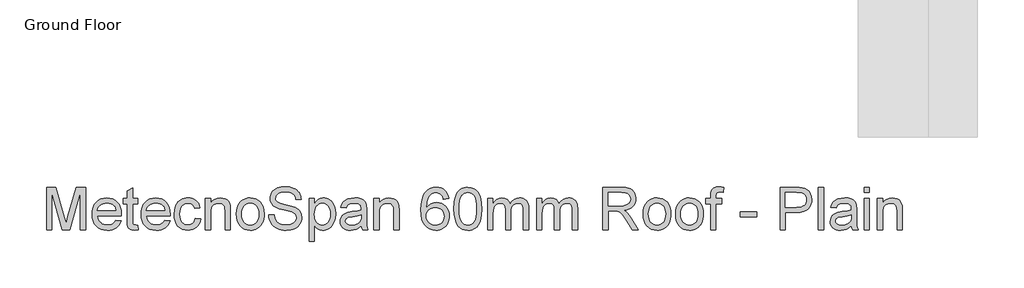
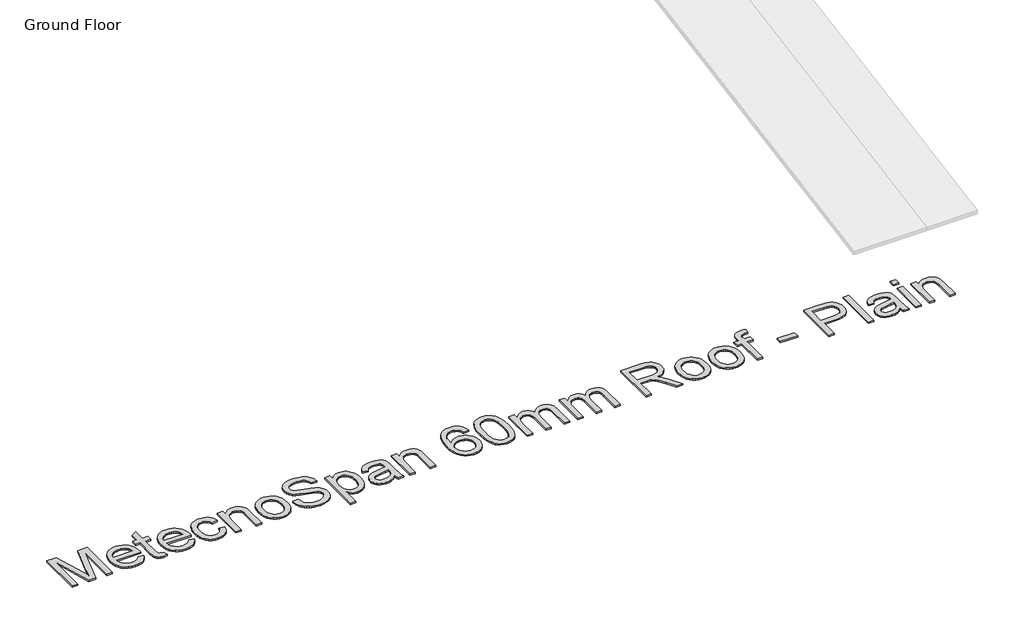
# One storey, part 5 of 14: 1 proxy.
"""IFC4 building model written with IfcOpenShell, lengths in millimetres."""

from ifc_helpers import new_model, si_unit, origin, origin_with_axes, place, context, project, spatial, polyline, outline, extrude, element, save

model = new_model("IFC4")

# Units and contexts
model_context = context("Model", 3, world=origin())
ifc_project = project(units=[si_unit("LENGTHUNIT", "METRE", prefix="MILLI")], contexts=[model_context])

# Site, building, storey
site = spatial("IfcSite", under=ifc_project)
building = spatial("IfcBuilding", under=site)
storey = spatial("IfcBuildingStorey", under=building, Name="Ground Floor", Elevation=0.0)

# Proxy
placement = place(None, origin())
element("IfcBuildingElementProxy", 1, Name="600mm Arial", ObjectType="600mm Arial", at=placement, inside=storey, context=model_context, shape_type="SweptSolid", body=[
    extrude(outline(polyline([(11613.3888321, -5259.7789852), (11613.3888321, -4657.0411243), (11743.0304472, -4657.0411243), (11866.344492, -5081.8712524), (11891.2133148, -5170.6043896), (11918.1422769, -5074.5136125), (12039.3961825, -4657.0411243), (12169.0377976, -4657.0411243), (12169.0377976, -5259.7789852), (12093.695565, -5259.7789852), (12093.695565, -4732.3833569), (11942.2753358, -5259.7789852), (11840.1512939, -5259.7789852), (11688.7310647, -4732.3833569), (11688.7310647, -5259.7789852), (11613.3888321, -5259.7789852)])), origin_with_axes(), (0.0, 0.0, 1.0), 20.0),
    extrude(outline(polyline([(12601.3727183, -5127.9300782), (12675.243423, -5137.3478572), (12663.917256, -5166.9347667), (12648.6271606, -5193.0084031), (12629.3731367, -5215.5687665), (12606.1551843, -5234.6158568), (12579.2124267, -5249.7450038), (12548.7839871, -5260.5515374), (12514.8698657, -5267.0354576), (12477.4700624, -5269.1967643), (12430.7214578, -5265.4673606), (12389.0680189, -5254.2791494), (12352.5097456, -5235.6321308), (12321.046638, -5209.5263047), (12295.7455538, -5176.6882381), (12277.6733508, -5137.8444979), (12266.830029, -5092.9950842), (12263.2155884, -5042.1399969), (12266.8668172, -4989.5604627), (12277.8205036, -4943.2165284), (12296.0766476, -4903.1081939), (12321.6352492, -4869.2354592), (12353.0155834, -4842.3248912), (12388.7369251, -4823.103057), (12428.7992744, -4811.5699564), (12473.2026312, -4807.7255896), (12516.1758468, -4811.5607594), (12555.037981, -4823.0662688), (12589.789034, -4842.2421178), (12620.4290057, -4869.0883064), (12645.4403828, -4902.8874647), (12663.3056522, -4942.9222228), (12674.0248139, -4989.1925807), (12677.5978677, -5041.6985385), (12677.1564093, -5062.0056246), (12338.557821, -5062.0056246), (12342.9218211, -5092.0707807), (12351.5992377, -5118.4019345), (12364.5900707, -5140.999086), (12381.89432, -5159.8622353), (12402.5554926, -5174.733865), (12425.6170951, -5185.3564576), (12451.0791277, -5191.7300132), (12478.9415903, -5193.8545317), (12519.0407278, -5189.9181943), (12552.812295, -5178.1091823), (12580.2562918, -5157.6917316), (12601.3727183, -5127.9300782)]), holes=[polyline([(12338.557821, -4986.663392), (12602.2556351, -4986.663392), (12592.0653039, -4946.8585601), (12583.3005153, -4931.2051812), (12572.0893115, -4918.3844937), (12551.5431021, -4902.9334499), (12528.1642013, -4891.8969901), (12501.9526091, -4885.2751141), (12472.9083256, -4883.0678222), (12446.4162234, -4884.8290572), (12422.1222162, -4890.1127624), (12400.0263038, -4898.9189376), (12380.1284864, -4911.247583), (12363.4312424, -4926.5284814), (12350.9370501, -4944.1914157), (12342.6459097, -4964.2363859), (12338.557821, -4986.663392)])]), origin_with_axes(), (0.0, 0.0, 1.0), 20.0),
    extrude(outline(polyline([(12913.0423446, -5196.9447405), (12922.4601237, -5261.9862772), (12866.1006021, -5269.1967643), (12829.9378019, -5266.0697674), (12802.9720517, -5256.6887765), (12783.9157643, -5242.2310141), (12771.4813529, -5223.8737025), (12764.6387478, -5192.3462155), (12762.3578794, -5138.3779268), (12762.3578794, -4892.4856012), (12705.851205, -4892.4856012), (12705.851205, -4817.1433686), (12762.3578794, -4817.1433686), (12762.3578794, -4709.5746732), (12837.700112, -4665.281681), (12837.700112, -4817.1433686), (12913.0423446, -4817.1433686), (12913.0423446, -4892.4856012), (12837.700112, -4892.4856012), (12837.700112, -5136.1706349), (12841.6732376, -5175.0189735), (12854.5491074, -5188.7777602), (12865.4200204, -5192.5853388), (12880.2272707, -5193.8545317), (12913.0423446, -5196.9447405)])), origin_with_axes(), (0.0, 0.0, 1.0), 20.0),
    extrude(outline(polyline([(13298.28837, -5127.9300782), (13372.1590746, -5137.3478572), (13360.8329077, -5166.9347667), (13345.5428123, -5193.0084031), (13326.2887884, -5215.5687665), (13303.0708359, -5234.6158568), (13276.1280783, -5249.7450038), (13245.6996388, -5260.5515374), (13211.7855174, -5267.0354576), (13174.385714, -5269.1967643), (13127.6371095, -5265.4673606), (13085.9836706, -5254.2791494), (13049.4253973, -5235.6321308), (13017.9622897, -5209.5263047), (12992.6612055, -5176.6882381), (12974.5890024, -5137.8444979), (12963.7456806, -5092.9950842), (12960.13124, -5042.1399969), (12963.7824688, -4989.5604627), (12974.7361552, -4943.2165284), (12992.9922993, -4903.1081939), (13018.5509009, -4869.2354592), (13049.9312351, -4842.3248912), (13085.6525768, -4823.103057), (13125.7149261, -4811.5699564), (13170.1182829, -4807.7255896), (13213.0914984, -4811.5607594), (13251.9536327, -4823.0662688), (13286.7046857, -4842.2421178), (13317.3446573, -4869.0883064), (13342.3560345, -4902.8874647), (13360.2213039, -4942.9222228), (13370.9404655, -4989.1925807), (13374.5135194, -5041.6985385), (13374.072061, -5062.0056246), (13035.4734726, -5062.0056246), (13039.8374728, -5092.0707807), (13048.5148894, -5118.4019345), (13061.5057223, -5140.999086), (13078.8099717, -5159.8622353), (13099.4711442, -5174.733865), (13122.5327468, -5185.3564576), (13147.9947794, -5191.7300132), (13175.857242, -5193.8545317), (13215.9563795, -5189.9181943), (13249.7279466, -5178.1091823), (13277.1719435, -5157.6917316), (13298.28837, -5127.9300782)]), holes=[polyline([(13035.4734726, -4986.663392), (13299.1712868, -4986.663392), (13288.9809555, -4946.8585601), (13280.216167, -4931.2051812), (13269.0049632, -4918.3844937), (13248.4587538, -4902.9334499), (13225.079853, -4891.8969901), (13198.8682608, -4885.2751141), (13169.8239773, -4883.0678222), (13143.3318751, -4884.8290572), (13119.0378678, -4890.1127624), (13096.9419555, -4898.9189376), (13077.0441381, -4911.247583), (13060.346894, -4926.5284814), (13047.8527018, -4944.1914157), (13039.5615613, -4964.2363859), (13035.4734726, -4986.663392)])]), origin_with_axes(), (0.0, 0.0, 1.0), 20.0),
    extrude(outline(polyline([(13732.3891243, -5099.6767409), (13807.7313569, -5109.09452), (13799.5367855, -5144.6457163), (13786.725295, -5176.1042254), (13769.2968855, -5203.4700473), (13747.2515569, -5226.7431821), (13721.5182113, -5245.3166243), (13693.0257508, -5258.5833687), (13661.7741753, -5266.5434154), (13627.7634849, -5269.1967643), (13585.5076392, -5265.4949517), (13547.6203922, -5254.389514), (13514.1017439, -5235.8804511), (13484.9516944, -5209.9677631), (13461.3566629, -5177.1388935), (13444.503069, -5137.8812861), (13434.3909126, -5092.1949409), (13431.0201939, -5040.0798577), (13436.7775471, -4973.0333641), (13443.9742386, -4942.862442), (13454.0496068, -4914.926403), (13467.0726294, -4889.7862671), (13483.1122844, -4868.0030545), (13502.1685717, -4849.576765), (13524.2414914, -4834.5073988), (13548.3331636, -4822.7903573), (13573.4457083, -4814.4210419), (13599.5791255, -4809.3994526), (13626.7334153, -4807.7255896), (13660.1600931, -4810.024852), (13690.3953946, -4816.9226394), (13717.4393197, -4828.4189518), (13741.2918686, -4844.5137891), (13761.5483709, -4864.8392693), (13777.8041566, -4889.0275105), (13790.0592256, -4917.0785126), (13798.3135778, -4948.9922757), (13722.9713452, -4958.4100548), (13709.3045291, -4925.5397985), (13688.0225557, -4901.9769567), (13660.3026474, -4887.7951058), (13627.3220265, -4883.0678222), (13601.7220381, -4885.3946758), (13578.6328444, -4892.3752367), (13558.0544453, -4904.0095047), (13539.9868408, -4920.2974801), (13525.2761595, -4941.6162417), (13514.7685301, -4968.3428687), (13508.4639524, -5000.4773609), (13506.3624265, -5038.0197185), (13508.4179671, -5076.1276947), (13514.5845891, -5108.6346675), (13524.8622923, -5135.5406369), (13539.2510768, -5156.845603), (13556.9599964, -5173.0370093), (13577.1981046, -5184.6022995), (13599.9654016, -5191.5414737), (13625.2618873, -5193.8545317), (13664.2757729, -5188.0787844), (13681.1477609, -5180.8591002), (13696.2631124, -5170.7515424), (13709.198763, -5157.6457463), (13719.5316486, -5141.4313474), (13727.261769, -5122.1083456), (13732.3891243, -5099.6767409)])), origin_with_axes(), (0.0, 0.0, 1.0), 20.0),
    extrude(outline(polyline([(13873.6558105, -5259.7789852), (13873.6558105, -4817.1433686), (13948.9980431, -4817.1433686), (13948.9980431, -4878.9475438), (13975.172847, -4847.7879388), (14006.6083635, -4825.5310781), (14043.3045925, -4812.1769617), (14085.2615341, -4807.7255896), (14122.3992215, -4811.312439), (14156.4099119, -4822.0729874), (14184.7736138, -4838.6644654), (14204.9703353, -4859.7441037), (14218.6739396, -4885.25672), (14227.5582898, -4915.1471322), (14231.5314154, -4987.9877672), (14231.5314154, -5259.7789852), (14156.1891827, -5259.7789852), (14156.1891827, -4998.1413103), (14154.018679, -4959.182607), (14147.5071677, -4931.4810927), (14135.4958205, -4911.6338591), (14116.8258093, -4896.2379976), (14092.8950855, -4886.360366), (14065.1016007, -4883.0678222), (14042.2239392, -4884.9164292), (14020.9741554, -4890.4622503), (14001.3522495, -4899.7052854), (13983.3582214, -4912.6455346), (13968.3256434, -4930.7545258), (13957.5880877, -4955.503787), (13951.1455542, -4986.8933183), (13948.9980431, -5024.9231195), (13948.9980431, -5259.7789852), (13873.6558105, -5259.7789852)])), origin_with_axes(), (0.0, 0.0, 1.0), 20.0),
    extrude(outline(polyline([(14316.2914271, -5038.4611769), (14320.3657201, -4981.135965), (14332.5885994, -4931.7386101), (14352.9600649, -4890.2691122), (14381.4801166, -4856.7274713), (14410.1933063, -4835.289148), (14441.8863402, -4819.97606), (14476.5592182, -4810.7882072), (14514.2119405, -4807.7255896), (14555.7780074, -4811.4549933), (14593.3617517, -4822.6432045), (14626.9631735, -4841.2902231), (14656.5822726, -4867.3960492), (14680.7567182, -4900.0777659), (14698.0241793, -4938.4524565), (14708.384656, -4982.520121), (14711.8381483, -5032.2807594), (14710.311438, -5072.6098231), (14705.7313071, -5108.3955442), (14698.0977557, -5139.6379227), (14687.4107838, -5166.3369585), (14673.8037485, -5189.398561), (14657.4100071, -5209.7286398), (14638.2295596, -5227.3271947), (14616.2624059, -5242.1942259), (14592.3638718, -5254.0078364), (14567.3892829, -5262.4461297), (14541.3386391, -5267.5091057), (14514.2119405, -5269.1967643), (14472.0388682, -5265.4811562), (14434.105636, -5254.3343317), (14400.4122438, -5235.7562909), (14370.9586915, -5209.7470339), (14347.0417633, -5176.7480189), (14329.9582432, -5137.2007044), (14319.7081311, -5091.1050904), (14316.2914271, -5038.4611769)]), holes=[polyline([(14391.6336597, -5038.3140241), (14393.8133605, -5074.8585018), (14400.3524629, -5106.5009519), (14411.2509671, -5133.2413745), (14426.5088728, -5155.0797694), (14445.0685195, -5172.0437279), (14465.8722463, -5184.1608411), (14488.9200533, -5191.4311091), (14514.2119405, -5193.8545317), (14539.3750689, -5191.4173135), (14562.3309054, -5184.1056588), (14583.07945, -5171.9195677), (14601.6207025, -5154.8590402), (14616.8786083, -5132.8045146), (14627.7771124, -5105.6364293), (14634.3162148, -5073.3547842), (14636.4959157, -5035.9595794), (14634.3024193, -5000.57393), (14627.7219301, -4969.7592143), (14616.7544481, -4943.5154325), (14601.3999733, -4921.8425845), (14582.7897429, -4904.878626), (14562.0549939, -4892.7615127), (14539.1957265, -4885.4912448), (14514.2119405, -4883.0678222), (14488.9200533, -4885.4820478), (14465.8722463, -4892.7247245), (14445.0685195, -4904.7958525), (14426.5088728, -4921.6954317), (14411.2509671, -4943.4694473), (14400.3524629, -4970.1638845), (14393.8133605, -5001.7787435), (14391.6336597, -5038.3140241)])]), origin_with_axes(), (0.0, 0.0, 1.0), 20.0),
    extrude(outline(polyline([(14777.7626018, -5052.5878455), (14853.1048344, -5052.5878455), (14861.7500613, -5094.3976343), (14877.3850461, -5128.0036546), (14901.7756224, -5154.6750992), (14936.6876237, -5175.6811611), (14979.3619352, -5189.3111891), (15027.0394417, -5193.8545317), (15069.0147774, -5190.414835), (15105.7661887, -5180.0957451), (15135.5462362, -5163.7617845), (15156.6074804, -5142.277476), (15169.1338624, -5117.6109882), (15173.309323, -5091.7304898), (15170.1823261, -5066.5121791), (15160.8013352, -5044.7151709), (15141.7450478, -5026.118736), (15109.5921615, -5010.5021453), (14999.8897505, -4981.7337733), (14927.8768499, -4962.69588), (14881.79963, -4944.5776918), (14844.2940606, -4919.2306223), (14817.7145865, -4888.5124757), (14801.8772666, -4853.0854396), (14796.59816, -4813.6117015), (14798.2306363, -4791.1754983), (14803.1280654, -4769.4842562), (14811.2904471, -4748.5379751), (14822.7177816, -4728.336655), (14837.2813101, -4709.7034319), (14854.8522739, -4693.4614419), (14875.430673, -4679.6106847), (14899.0165074, -4668.1511606), (14952.0283029, -4652.7552991), (15010.7054811, -4647.6233453), (15074.2754899, -4652.9944224), (15129.8992476, -4669.1076538), (15154.2346416, -4681.1098039), (15175.5901914, -4695.6319456), (15193.965897, -4712.6740791), (15209.3617585, -4732.2362041), (15221.6582142, -4753.7481038), (15230.7357025, -4776.639561), (15236.5942232, -4800.9105756), (15239.2337766, -4826.5611477), (15163.8915439, -4826.5611477), (15158.8515606, -4802.5200593), (15150.0591809, -4781.6059679), (15137.5144049, -4763.8188734), (15121.2172325, -4749.1587759), (15100.8641611, -4737.6992518), (15076.1516881, -4729.5138774), (15047.0798134, -4724.6026527), (15013.6485371, -4722.9655779), (14979.150403, -4724.5842587), (14949.6738581, -4729.440301), (14925.2189025, -4737.5337049), (14905.7855361, -4748.8644703), (14890.9782858, -4762.4853012), (14880.4016785, -4777.4489014), (14874.055714, -4793.7552708), (14871.9403926, -4811.4044095), (14873.4395117, -4826.5887389), (14877.9368691, -4840.3567225), (14885.4324647, -4852.7083605), (14895.9262987, -4863.6436528), (14912.4442002, -4873.999531), (14938.4534573, -4884.4657738), (15018.9460378, -4905.7293531), (15102.0137923, -4925.9260746), (15152.2664729, -4943.5476222), (15195.2166958, -4970.8812544), (15211.8219694, -4986.9485006), (15225.1806843, -5004.6160334), (15235.4491905, -5023.7918824), (15242.7838378, -5044.3840771), (15248.6515556, -5089.8175035), (15246.963897, -5113.3849438), (15241.900921, -5136.2626054), (15233.4626278, -5158.4504882), (15221.6490172, -5179.9485923), (15206.6670229, -5199.9245846), (15188.7235786, -5217.5461322), (15167.8186842, -5232.813235), (15143.9523398, -5245.725893), (15117.8189226, -5255.9943992), (15090.1128098, -5263.3290465), (15029.9824977, -5269.1967643), (14991.4422602, -5267.6148717), (14956.1669754, -5262.869194), (14924.1566433, -5254.9597311), (14895.4112639, -5243.886483), (14869.7560932, -5229.6310557), (14847.0163874, -5212.1750551), (14827.1921464, -5191.518481), (14810.2833702, -5167.6613336), (14796.6625393, -5141.3761651), (14786.7021343, -5113.4355276), (14780.4021551, -5083.839421), (14777.7626018, -5052.5878455)])), origin_with_axes(), (0.0, 0.0, 1.0), 20.0),
    extrude(outline(polyline([(15352.2471255, -5429.2990086), (15352.2471255, -4817.1433686), (15427.5893581, -4817.1433686), (15427.5893581, -4891.0140733), (15452.1638754, -4854.5753616), (15479.6814486, -4828.5477105), (15511.7607586, -4812.9311198), (15550.0204861, -4807.7255896), (15576.2964576, -4809.5466054), (15600.9721424, -4815.0096531), (15624.0475406, -4824.1147324), (15645.522652, -4836.8618436), (15664.9284273, -4852.9198927), (15681.7958167, -4871.9577859), (15696.1248205, -4893.9755233), (15707.9154384, -4918.9731049), (15723.697576, -4974.486498), (15728.9582885, -5035.0766626), (15723.0169943, -5099.511194), (15715.5903765, -5129.1762784), (15705.1931116, -5157.1399086), (15691.9677539, -5182.670919), (15676.0568576, -5205.0381444), (15657.4604228, -5224.2415845), (15636.1784493, -5240.2812395), (15613.2548025, -5252.9317816), (15589.7333475, -5261.9678831), (15565.6140841, -5267.389544), (15540.8970126, -5269.1967643), (15506.2609227, -5264.3591161), (15475.3404411, -5249.8461714), (15448.8713315, -5227.9387986), (15427.5893581, -5200.917866), (15427.5893581, -5429.2990086), (15352.2471255, -5429.2990086)]), holes=[polyline([(15427.5893581, -5041.9928441), (15429.6265046, -5078.302797), (15435.7379443, -5109.5359784), (15445.923677, -5135.6923883), (15460.1837029, -5156.7720266), (15477.3499965, -5172.9956226), (15496.2545325, -5184.5839054), (15516.8973109, -5191.5368751), (15539.2783318, -5193.8545317), (15561.9812494, -5191.4541017), (15583.0011069, -5184.2528116), (15602.3379043, -5172.2506615), (15619.9916416, -5155.4476514), (15634.7023228, -5133.6046579), (15645.2099523, -5106.4825578), (15651.51453, -5074.0813511), (15653.6160559, -5036.4010378), (15651.5651138, -5000.4037845), (15645.4122874, -4969.2257854), (15635.1575768, -4942.8670405), (15620.8009819, -4921.3275497), (15603.5933016, -4904.5889189), (15584.7853346, -4892.632754), (15564.3770809, -4885.4590551), (15542.3685406, -4883.0678222), (15520.4289781, -4885.6108065), (15499.7861996, -4893.2397593), (15480.4402052, -4905.9546808), (15462.3909948, -4923.7555708), (15447.1652787, -4946.4033062), (15436.2897673, -4973.6587635), (15429.7644604, -5005.5219428), (15427.5893581, -5041.9928441)])]), origin_with_axes(), (0.0, 0.0, 1.0), 20.0),
    extrude(outline(polyline([(16096.2516725, -5203.2723108), (16060.2544193, -5234.1376102), (16023.1903083, -5254.3343317), (15984.2132109, -5265.4811562), (15942.4769985, -5269.1967643), (15908.9307591, -5266.9618812), (15879.5139951, -5260.2572318), (15854.2267064, -5249.0828162), (15833.0688932, -5233.4386344), (15816.3624521, -5214.3179677), (15804.4292798, -5192.7140975), (15797.2693765, -5168.6270239), (15794.8827421, -5142.0567468), (15798.4879856, -5110.8235654), (15809.3037163, -5082.4598636), (15825.9871648, -5058.1796519), (15847.1955618, -5039.1969409), (15872.119567, -5024.8495431), (15899.9498399, -5014.4752708), (15965.1385294, -5003.1445054), (16042.1730192, -4991.2251288), (16095.8102141, -4977.2456129), (16096.2516725, -4960.470194), (16091.0645364, -4926.8457796), (16084.5806162, -4914.3929741), (16075.503128, -4904.8464363), (16059.8129609, -4895.3182926), (16040.7014912, -4888.5124757), (15992.2146443, -4883.0678222), (15947.3330409, -4886.6914598), (15915.9894949, -4897.5623728), (15894.615551, -4917.6671238), (15879.6427538, -4948.9922757), (15804.3005211, -4939.5744966), (15817.3787261, -4898.3717132), (15836.8948659, -4865.9980976), (15864.6699566, -4841.2396393), (15902.5250139, -4822.8823278), (15948.8229629, -4811.5147741), (16001.926729, -4807.7255896), (16052.8599912, -4811.0733157), (16093.2350402, -4821.1164942), (16123.6772753, -4836.2180501), (16144.8120959, -4854.7409085), (16158.8283999, -4877.6415627), (16167.9150852, -4905.8765059), (16171.5939051, -4971.8009594), (16171.5939051, -5065.5372918), (16175.4198779, -5196.4297057), (16181.0852606, -5228.7849271), (16190.4294633, -5259.7789852), (16115.0872307, -5259.7789852), (16103.0207012, -5233.5857872), (16096.2516725, -5203.2723108)]), holes=[polyline([(16096.2516725, -5052.5878455), (16045.63111, -5065.1326216), (15974.7034613, -5075.6908348), (15909.8826538, -5087.9045171), (15893.0152643, -5096.2554384), (15880.5256705, -5107.7701448), (15872.8001486, -5121.5657196), (15870.2249747, -5136.759246), (15875.8351751, -5159.1632596), (15892.6657764, -5177.5205711), (15920.3488965, -5189.7710416), (15958.5166535, -5193.8545317), (15998.983673, -5189.3479773), (16034.7418029, -5175.8283139), (16063.7309041, -5155.9075039), (16083.8908375, -5132.1975093), (16092.83037, -5107.7701448), (16095.8102141, -5073.9250013), (16096.2516725, -5052.5878455)])]), origin_with_axes(), (0.0, 0.0, 1.0), 20.0),
    extrude(outline(polyline([(16275.189475, -5259.7789852), (16275.189475, -4817.1433686), (16350.5317076, -4817.1433686), (16350.5317076, -4878.9475438), (16376.7065115, -4847.7879388), (16408.142028, -4825.5310781), (16444.838257, -4812.1769617), (16486.7951986, -4807.7255896), (16523.932886, -4811.312439), (16557.9435765, -4822.0729874), (16586.3072783, -4838.6644654), (16606.5039998, -4859.7441037), (16620.2076041, -4885.25672), (16629.0919543, -4915.1471322), (16633.0650799, -4987.9877672), (16633.0650799, -5259.7789852), (16557.7228473, -5259.7789852), (16557.7228473, -4998.1413103), (16555.5523435, -4959.182607), (16549.0408322, -4931.4810927), (16537.029485, -4911.6338591), (16518.3594738, -4896.2379976), (16494.42875, -4886.360366), (16466.6352653, -4883.0678222), (16443.7576037, -4884.9164292), (16422.5078199, -4890.4622503), (16402.885914, -4899.7052854), (16384.8918859, -4912.6455346), (16369.8593079, -4930.7545258), (16359.1217522, -4955.503787), (16352.6792187, -4986.8933183), (16350.5317076, -5024.9231195), (16350.5317076, -5259.7789852), (16275.189475, -5259.7789852)])), origin_with_axes(), (0.0, 0.0, 1.0), 20.0),
    extrude(outline(polyline([(17339.3985106, -4817.1433686), (17264.056278, -4826.5611477), (17251.9161722, -4789.2211252), (17235.5086352, -4763.7269029), (17219.3126303, -4750.0141016), (17201.3323978, -4740.2192434), (17181.5679376, -4734.3423286), (17160.0192498, -4732.3833569), (17124.9968838, -4736.9450937), (17092.0346571, -4750.6303039), (17063.7261375, -4779.4538582), (17040.6047541, -4819.1299314), (17031.5686526, -4844.4356142), (17024.9881634, -4875.2503298), (17019.194022, -4953.4068597), (17049.4155279, -4918.1453704), (17085.6335103, -4893.2949416), (17125.8246183, -4878.5612677), (17167.9655009, -4873.6500431), (17204.1650892, -4877.0069663), (17237.5687744, -4887.0777359), (17268.1765563, -4903.8623519), (17295.9884352, -4927.3608144), (17319.1006215, -4956.1751717), (17335.6093261, -4988.9074722), (17345.5145488, -5025.557716), (17348.8162897, -5066.125903), (17347.2619883, -5093.5928924), (17342.599084, -5120.0757976), (17334.8275768, -5145.5746184), (17323.9474668, -5170.0893548), (17310.34503, -5192.7049005), (17294.4065426, -5212.5061489), (17276.1320045, -5229.4931), (17255.5214157, -5243.6657538), (17233.0162347, -5254.8355709), (17209.0579197, -5262.8140117), (17183.6464709, -5267.6010762), (17156.7818882, -5269.1967643), (17111.8680951, -5264.9661214), (17071.3045066, -5252.2741925), (17035.0911227, -5231.1209778), (17003.2279434, -5201.5064772), (16977.250876, -5162.1798919), (16958.6958279, -5111.8904232), (16947.562799, -5050.638071), (16943.8517894, -4978.4228353), (16947.9720677, -4897.4612052), (16960.3329028, -4828.3637695), (16980.9342945, -4771.1305281), (16994.3251991, -4746.9629803), (17009.7762429, -4725.761481), (17041.0370155, -4695.696325), (17077.2825891, -4674.2212135), (17118.5129637, -4661.3361466), (17164.7281393, -4657.0411243), (17199.4286085, -4659.6990718), (17230.8365338, -4667.672914), (17258.9519153, -4680.9626511), (17283.7747529, -4699.568283), (17304.6336621, -4722.8644103), (17320.8572581, -4750.2256337), (17332.4455409, -4781.6519532), (17339.3985106, -4817.1433686)]), holes=[polyline([(17019.194022, -5064.9486806), (17023.5534237, -5098.3339717), (17036.6316286, -5130.2109465), (17056.9387147, -5157.6181552), (17082.98476, -5177.5941475), (17114.4202765, -5189.7894357), (17150.8957763, -5193.8545317), (17177.0843758, -5191.7484073), (17200.6150279, -5185.430034), (17221.4877326, -5174.8994119), (17239.7024899, -5160.1565409), (17254.4775506, -5141.7992294), (17265.0311653, -5120.4252855), (17271.3633341, -5096.0347092), (17273.4740571, -5068.6275005), (17271.3909253, -5042.2917482), (17265.1415299, -5018.9082489), (17254.7258709, -4998.4770026), (17240.1439483, -4980.9980093), (17221.8740087, -4966.9955008), (17200.3942987, -4956.9937091), (17175.7048183, -4950.9926341), (17147.8055675, -4948.9922757), (17121.9664559, -4950.9926341), (17098.1598923, -4956.9937091), (17076.3858767, -4966.9955008), (17056.6444091, -4980.9980093), (17040.2598648, -4998.2470763), (17028.5566188, -5017.9885439), (17021.5346712, -5040.222412), (17019.194022, -5064.9486806)])]), origin_with_axes(), (0.0, 0.0, 1.0), 20.0),
    extrude(outline(polyline([(17414.7407432, -4963.2660971), (17420.2773673, -4866.7890439), (17427.1981473, -4825.8759675), (17436.8872393, -4789.8465246), (17449.3032567, -4758.4064096), (17464.4048126, -4731.2613169), (17482.191907, -4708.4112464), (17502.6645401, -4689.8561983), (17525.8916895, -4675.4996034), (17551.9423333, -4665.2448928), (17580.8164714, -4659.0920665), (17612.5141038, -4657.0411243), (17658.9408116, -4661.8971667), (17700.5114771, -4676.4652937), (17735.2763256, -4700.1752883), (17761.2855827, -4732.4569333), (17780.9304812, -4773.0343174), (17796.6022542, -4821.631529), (17806.8661619, -4883.3437337), (17810.2874644, -4963.2660971), (17804.8060227, -5059.1913274), (17797.9542206, -5099.966448), (17788.3616975, -5135.9499057), (17776.0422492, -5167.4038162), (17761.0096712, -5194.5902957), (17743.2639634, -5217.509344), (17722.805126, -5236.1609611), (17699.5503854, -5250.614125), (17673.4169681, -5260.9378135), (17644.4048743, -5267.1320266), (17612.5141038, -5269.1967643), (17571.0170148, -5265.6099149), (17534.2288153, -5254.8493665), (17502.1495053, -5236.9151192), (17474.7790848, -5211.8071731), (17448.5123104, -5166.4197319), (17429.7503286, -5109.8670722), (17418.4931396, -5042.1491939), (17414.7407432, -4963.2660971)]), holes=[polyline([(17490.0829758, -4963.1189443), (17492.2902678, -5028.615735), (17498.9121437, -5081.6321291), (17509.9486036, -5122.1681264), (17525.3996474, -5150.2237271), (17544.0880527, -5169.3122041), (17564.8365973, -5182.9468305), (17587.645281, -5191.1276064), (17612.5141038, -5193.8545317), (17637.3829267, -5191.1184094), (17660.1916104, -5182.9100423), (17680.9401549, -5169.2294306), (17699.6285603, -5150.0765743), (17715.0796041, -5121.9749884), (17726.1160639, -5081.4481881), (17732.7379399, -5028.4961734), (17734.9452318, -4963.1189443), (17732.8115163, -4899.3557975), (17726.4103695, -4847.272904), (17715.7417917, -4806.8702639), (17700.8057827, -4778.1478771), (17682.430077, -4758.1258996), (17661.4424092, -4743.824487), (17637.8427792, -4735.2436395), (17611.631187, -4732.3833569), (17586.8911229, -4734.9033486), (17564.4687153, -4742.4633236), (17544.3639642, -4755.063282), (17526.5768698, -4772.7032236), (17510.6107912, -4803.9731932), (17499.2064493, -4846.1324699), (17492.3638442, -4899.1810536), (17490.0829758, -4963.1189443)])]), origin_with_axes(), (0.0, 0.0, 1.0), 20.0),
    extrude(outline(polyline([(17895.0474761, -5259.7789852), (17895.0474761, -4817.1433686), (17970.3897087, -4817.1433686), (17970.3897087, -4889.9840037), (17993.0512396, -4856.5251362), (18022.1874937, -4830.3135441), (18056.8051894, -4813.3725782), (18095.9110455, -4807.7255896), (18137.8128047, -4813.4829428), (18155.6458845, -4820.6796343), (18171.4004309, -4830.7550025), (18196.489983, -4858.4013344), (18212.89752, -4895.2815044), (18240.3599109, -4856.9757917), (18271.6850628, -4829.6145683), (18306.8729756, -4813.1978342), (18345.9236494, -4807.7255896), (18376.0853745, -4810.0018594), (18402.5590826, -4816.8306689), (18425.3447737, -4828.2120182), (18444.4424477, -4844.1459071), (18459.5394051, -4864.8162767), (18470.3229461, -4890.407068), (18476.7930707, -4920.918281), (18478.9497789, -4956.3499156), (18478.9497789, -5259.7789852), (18403.6075463, -5259.7789852), (18403.6075463, -4988.7235312), (18401.8601068, -4951.1443854), (18396.6177884, -4925.81571), (18386.7953391, -4908.4700739), (18371.3075071, -4894.840046), (18351.386697, -4886.0108781), (18328.2653137, -4883.0678222), (18306.9143624, -4884.9532174), (18287.4488063, -4890.6094031), (18269.8686454, -4900.0363792), (18254.1738798, -4913.2341458), (18241.2658203, -4930.5889789), (18232.0457778, -4952.4871547), (18226.5137523, -4978.9286731), (18224.6697438, -5009.9135341), (18224.6697438, -5259.7789852), (18149.3275112, -5259.7789852), (18149.3275112, -4980.3358217), (18144.9681096, -4937.7350867), (18139.5188575, -4921.01485), (18131.8899046, -4907.3480339), (18121.7777483, -4896.7254412), (18108.8788858, -4889.1378751), (18093.1933173, -4884.5853354), (18074.7210426, -4883.0678222), (18045.6951532, -4887.1145241), (18018.9501321, -4899.25463), (17996.8772124, -4919.1938341), (17981.867627, -4946.6378309), (17973.2591883, -4984.7136174), (17970.3897087, -5036.5481906), (17970.3897087, -5259.7789852), (17895.0474761, -5259.7789852)])), origin_with_axes(), (0.0, 0.0, 1.0), 20.0),
    extrude(outline(polyline([(18591.9631278, -5259.7789852), (18591.9631278, -4817.1433686), (18667.3053604, -4817.1433686), (18667.3053604, -4889.9840037), (18689.9668913, -4856.5251362), (18719.1031453, -4830.3135441), (18753.7208411, -4813.3725782), (18792.8266972, -4807.7255896), (18834.7284564, -4813.4829428), (18852.5615361, -4820.6796343), (18868.3160826, -4830.7550025), (18893.4056346, -4858.4013344), (18909.8131716, -4895.2815044), (18937.2755626, -4856.9757917), (18968.6007145, -4829.6145683), (19003.7886273, -4813.1978342), (19042.8393011, -4807.7255896), (19073.0010262, -4810.0018594), (19099.4747342, -4816.8306689), (19122.2604253, -4828.2120182), (19141.3580994, -4844.1459071), (19156.4550568, -4864.8162767), (19167.2385978, -4890.407068), (19173.7087223, -4920.918281), (19175.8654305, -4956.3499156), (19175.8654305, -5259.7789852), (19100.5231979, -5259.7789852), (19100.5231979, -4988.7235312), (19098.7757584, -4951.1443854), (19093.53344, -4925.81571), (19083.7109907, -4908.4700739), (19068.2231587, -4894.840046), (19048.3023487, -4886.0108781), (19025.1809653, -4883.0678222), (19003.830014, -4884.9532174), (18984.3644579, -4890.6094031), (18966.7842971, -4900.0363792), (18951.0895315, -4913.2341458), (18938.181472, -4930.5889789), (18928.9614295, -4952.4871547), (18923.429404, -4978.9286731), (18921.5853955, -5009.9135341), (18921.5853955, -5259.7789852), (18846.2431629, -5259.7789852), (18846.2431629, -4980.3358217), (18841.8837612, -4937.7350867), (18836.4345092, -4921.01485), (18828.8055563, -4907.3480339), (18818.6933999, -4896.7254412), (18805.7945375, -4889.1378751), (18790.1089689, -4884.5853354), (18771.6366942, -4883.0678222), (18742.6108048, -4887.1145241), (18715.8657838, -4899.25463), (18693.7928641, -4919.1938341), (18678.7832787, -4946.6378309), (18670.17484, -4984.7136174), (18667.3053604, -5036.5481906), (18667.3053604, -5259.7789852), (18591.9631278, -5259.7789852)])), origin_with_axes(), (0.0, 0.0, 1.0), 20.0),
    extrude(outline(polyline([(19533.7410354, -5259.7789852), (19533.7410354, -4657.0411243), (19793.465724, -4657.0411243), (19863.2713326, -4661.1062204), (19914.0574421, -4673.3015085), (19933.6563554, -4682.9951991), (19951.1767354, -4695.8158866), (19966.6185821, -4711.7635711), (19979.9818956, -4730.8382526), (19990.7654366, -4752.0144599), (19998.4679659, -4774.2667221), (20003.0894834, -4797.5950391), (20004.6299893, -4821.999411), (20002.0778079, -4852.9566809), (19994.4212639, -4881.375565), (19981.6603572, -4907.2560634), (19963.7950878, -4930.5981759), (19940.5955295, -4950.6569417), (19911.831756, -4966.6873997), (19877.5037673, -4978.6895498), (19837.6115635, -4986.663392), (19862.4435981, -5002.886988), (19880.4330277, -5018.8898548), (19911.2983271, -5055.4941133), (19941.5014389, -5096.4393794), (20042.0068, -5259.7789852), (19954.4508851, -5259.7789852), (19876.0184438, -5134.8462597), (19819.3646165, -5052.1463872), (19798.3033723, -5028.0317224), (19779.5597846, -5013.0773193), (19743.7280783, -4998.7299215), (19700.0236973, -4996.0811711), (19609.0832681, -4996.0811711), (19609.0832681, -5259.7789852), (19533.7410354, -5259.7789852)]), holes=[polyline([(19609.0832681, -4920.7389385), (19777.7203746, -4920.7389385), (19826.1520393, -4918.071794), (19863.7311851, -4910.0703606), (19892.0213105, -4896.2012094), (19912.5859141, -4875.9309115), (19925.112296, -4851.4115765), (19929.2877567, -4824.7953141), (19927.2965954, -4805.5274946), (19921.3231115, -4788.0439028), (19911.367305, -4772.3445387), (19897.4291759, -4758.4294022), (19879.1868274, -4747.0342574), (19856.3183629, -4738.8948683), (19828.8237823, -4734.0112348), (19796.7030856, -4732.3833569), (19609.0832681, -4732.3833569), (19609.0832681, -4920.7389385)])]), origin_with_axes(), (0.0, 0.0, 1.0), 20.0),
    extrude(outline(polyline([(20108.2255591, -5038.4611769), (20112.2998522, -4981.135965), (20124.5227315, -4931.7386101), (20144.894197, -4890.2691122), (20173.4142487, -4856.7274713), (20202.1274384, -4835.289148), (20233.8204723, -4819.97606), (20268.4933503, -4810.7882072), (20306.1460725, -4807.7255896), (20347.7121394, -4811.4549933), (20385.2958838, -4822.6432045), (20418.8973055, -4841.2902231), (20448.5164047, -4867.3960492), (20472.6908503, -4900.0777659), (20489.9583114, -4938.4524565), (20500.3187881, -4982.520121), (20503.7722803, -5032.2807594), (20502.24557, -5072.6098231), (20497.6654392, -5108.3955442), (20490.0318878, -5139.6379227), (20479.3449158, -5166.3369585), (20465.7378806, -5189.398561), (20449.3441391, -5209.7286398), (20430.1636916, -5227.3271947), (20408.196538, -5242.1942259), (20384.2980039, -5254.0078364), (20359.3234149, -5262.4461297), (20333.2727711, -5267.5091057), (20306.1460725, -5269.1967643), (20263.9730003, -5265.4811562), (20226.0397681, -5254.3343317), (20192.3463758, -5235.7562909), (20162.8928236, -5209.7470339), (20138.9758954, -5176.7480189), (20121.8923752, -5137.2007044), (20111.6422631, -5091.1050904), (20108.2255591, -5038.4611769)]), holes=[polyline([(20183.5677917, -5038.3140241), (20185.7474925, -5074.8585018), (20192.286595, -5106.5009519), (20203.1850991, -5133.2413745), (20218.4430049, -5155.0797694), (20237.0026515, -5172.0437279), (20257.8063784, -5184.1608411), (20280.8541854, -5191.4311091), (20306.1460725, -5193.8545317), (20331.309201, -5191.4173135), (20354.2650375, -5184.1056588), (20375.013582, -5171.9195677), (20393.5548346, -5154.8590402), (20408.8127403, -5132.8045146), (20419.7112444, -5105.6364293), (20426.2503469, -5073.3547842), (20428.4300477, -5035.9595794), (20426.2365513, -5000.57393), (20419.6560621, -4969.7592143), (20408.6885801, -4943.5154325), (20393.3341054, -4921.8425845), (20374.7238749, -4904.878626), (20353.989126, -4892.7615127), (20331.1298585, -4885.4912448), (20306.1460725, -4883.0678222), (20280.8541854, -4885.4820478), (20257.8063784, -4892.7247245), (20237.0026515, -4904.7958525), (20218.4430049, -4921.6954317), (20203.1850991, -4943.4694473), (20192.286595, -4970.1638845), (20185.7474925, -5001.7787435), (20183.5677917, -5038.3140241)])]), origin_with_axes(), (0.0, 0.0, 1.0), 20.0),
    extrude(outline(polyline([(20569.6967339, -5038.4611769), (20573.771027, -4981.135965), (20585.9939063, -4931.7386101), (20606.3653717, -4890.2691122), (20634.8854234, -4856.7274713), (20663.5986131, -4835.289148), (20695.291647, -4819.97606), (20729.9645251, -4810.7882072), (20767.6172473, -4807.7255896), (20809.1833142, -4811.4549933), (20846.7670585, -4822.6432045), (20880.3684803, -4841.2902231), (20909.9875794, -4867.3960492), (20934.162025, -4900.0777659), (20951.4294862, -4938.4524565), (20961.7899628, -4982.520121), (20965.2434551, -5032.2807594), (20963.7167448, -5072.6098231), (20959.136614, -5108.3955442), (20951.5030626, -5139.6379227), (20940.8160906, -5166.3369585), (20927.2090553, -5189.398561), (20910.8153139, -5209.7286398), (20891.6348664, -5227.3271947), (20869.6677127, -5242.1942259), (20845.7691786, -5254.0078364), (20820.7945897, -5262.4461297), (20794.7439459, -5267.5091057), (20767.6172473, -5269.1967643), (20725.444175, -5265.4811562), (20687.5109428, -5254.3343317), (20653.8175506, -5235.7562909), (20624.3639983, -5209.7470339), (20600.4470701, -5176.7480189), (20583.36355, -5137.2007044), (20573.1134379, -5091.1050904), (20569.6967339, -5038.4611769)]), holes=[polyline([(20645.0389665, -5038.3140241), (20647.2186673, -5074.8585018), (20653.7577698, -5106.5009519), (20664.6562739, -5133.2413745), (20679.9141796, -5155.0797694), (20698.4738263, -5172.0437279), (20719.2775531, -5184.1608411), (20742.3253601, -5191.4311091), (20767.6172473, -5193.8545317), (20792.7803757, -5191.4173135), (20815.7362122, -5184.1056588), (20836.4847568, -5171.9195677), (20855.0260093, -5154.8590402), (20870.2839151, -5132.8045146), (20881.1824192, -5105.6364293), (20887.7215216, -5073.3547842), (20889.9012225, -5035.9595794), (20887.7077261, -5000.57393), (20881.1272369, -4969.7592143), (20870.1597549, -4943.5154325), (20854.8052801, -4921.8425845), (20836.1950497, -4904.878626), (20815.4603007, -4892.7615127), (20792.6010333, -4885.4912448), (20767.6172473, -4883.0678222), (20742.3253601, -4885.4820478), (20719.2775531, -4892.7247245), (20698.4738263, -4904.7958525), (20679.9141796, -4921.6954317), (20664.6562739, -4943.4694473), (20653.7577698, -4970.1638845), (20647.2186673, -5001.7787435), (20645.0389665, -5038.3140241)])]), origin_with_axes(), (0.0, 0.0, 1.0), 20.0),
    extrude(outline(polyline([(21068.8390249, -5259.7789852), (21068.8390249, -4892.4856012), (21002.9145714, -4892.4856012), (21002.9145714, -4817.1433686), (21068.8390249, -4817.1433686), (21068.8390249, -4772.5560708), (21070.8255877, -4735.6575067), (21076.785276, -4709.721826), (21091.9420142, -4684.6690622), (21115.3393091, -4664.8402226), (21148.0808067, -4651.9275646), (21191.2701529, -4647.6233453), (21223.9748623, -4649.6834844), (21259.9905096, -4655.863902), (21248.9540498, -4726.497245), (21205.5439743, -4722.9655779), (21176.904361, -4726.0925748), (21158.0871969, -4735.4735657), (21147.6577424, -4753.3894189), (21144.1812575, -4782.1210027), (21144.1812575, -4817.1433686), (21228.9412692, -4817.1433686), (21228.9412692, -4892.4856012), (21144.1812575, -4892.4856012), (21144.1812575, -5259.7789852), (21068.8390249, -5259.7789852)])), origin_with_axes(), (0.0, 0.0, 1.0), 20.0),
    extrude(outline(polyline([(21492.6390834, -5080.8411828), (21492.6390834, -5005.4989502), (21728.0835603, -5005.4989502), (21728.0835603, -5080.8411828), (21492.6390834, -5080.8411828)])), origin_with_axes(), (0.0, 0.0, 1.0), 20.0),
    extrude(outline(polyline([(22057.705828, -5259.7789852), (22057.705828, -4657.0411243), (22281.0837754, -4657.0411243), (22333.1022895, -4658.4758641), (22371.1412878, -4662.7800835), (22411.2956076, -4673.5038436), (22444.3498049, -4690.9598443), (22470.9660672, -4715.9390318), (22491.8065823, -4749.2323523), (22505.2710633, -4788.5037553), (22509.7592236, -4831.41719), (22506.7287957, -4868.4169217), (22497.6375119, -4902.4552033), (22482.4853722, -4933.5320349), (22461.2723767, -4961.6474163), (22432.1499182, -4984.9527407), (22393.2693899, -5001.599401), (22344.6307916, -5011.5873972), (22286.2341234, -5014.9167292), (22133.0480606, -5014.9167292), (22133.0480606, -5259.7789852), (22057.705828, -5259.7789852)]), holes=[polyline([(22133.0480606, -4939.5744966), (22290.6487073, -4939.5744966), (22326.8850838, -4937.8454513), (22357.4560776, -4932.6583151), (22382.3616887, -4924.0130882), (22401.601917, -4911.9097706), (22415.9585119, -4896.6702589), (22426.2132225, -4878.61645), (22432.3660489, -4857.7483439), (22434.416991, -4834.0659404), (22429.5793428, -4800.2207969), (22415.0663981, -4771.673154), (22392.6807787, -4750.1888455), (22364.2251063, -4737.5337049), (22335.1624287, -4733.6709439), (22288.8828737, -4732.3833569), (22133.0480606, -4732.3833569), (22133.0480606, -4939.5744966)])]), origin_with_axes(), (0.0, 0.0, 1.0), 20.0),
    extrude(outline(polyline([(22603.9370144, -5259.7789852), (22603.9370144, -4657.0411243), (22679.279247, -4657.0411243), (22679.279247, -5259.7789852), (22603.9370144, -5259.7789852)])), origin_with_axes(), (0.0, 0.0, 1.0), 20.0),
    extrude(outline(polyline([(23074.8259682, -5203.2723108), (23038.828715, -5234.1376102), (23001.764604, -5254.3343317), (22962.7875066, -5265.4811562), (22921.0512942, -5269.1967643), (22887.5050548, -5266.9618812), (22858.0882908, -5260.2572318), (22832.8010021, -5249.0828162), (22811.6431889, -5233.4386344), (22794.9367478, -5214.3179677), (22783.0035755, -5192.7140975), (22775.8436722, -5168.6270239), (22773.4570378, -5142.0567468), (22777.0622813, -5110.8235654), (22787.878012, -5082.4598636), (22804.5614605, -5058.1796519), (22825.7698575, -5039.1969409), (22850.6938627, -5024.8495431), (22878.5241356, -5014.4752708), (22943.7128251, -5003.1445054), (23020.7473149, -4991.2251288), (23074.3845098, -4977.2456129), (23074.8259682, -4960.470194), (23069.6388321, -4926.8457796), (23063.1549119, -4914.3929741), (23054.0774237, -4904.8464363), (23038.3872566, -4895.3182926), (23019.2757869, -4888.5124757), (22970.78894, -4883.0678222), (22925.9073366, -4886.6914598), (22894.5637906, -4897.5623728), (22873.1898467, -4917.6671238), (22858.2170495, -4948.9922757), (22782.8748168, -4939.5744966), (22795.9530218, -4898.3717132), (22815.4691616, -4865.9980976), (22843.2442523, -4841.2396393), (22881.0993096, -4822.8823278), (22927.3972587, -4811.5147741), (22980.5010247, -4807.7255896), (23031.4342869, -4811.0733157), (23071.8093359, -4821.1164942), (23102.251571, -4836.2180501), (23123.3863916, -4854.7409085), (23137.4026956, -4877.6415627), (23146.4893809, -4905.8765059), (23150.1682008, -4971.8009594), (23150.1682008, -5065.5372918), (23153.9941736, -5196.4297057), (23159.6595563, -5228.7849271), (23169.003759, -5259.7789852), (23093.6615264, -5259.7789852), (23081.5949969, -5233.5857872), (23074.8259682, -5203.2723108)]), holes=[polyline([(23074.8259682, -5052.5878455), (23024.2054057, -5065.1326216), (22953.277757, -5075.6908348), (22888.4569495, -5087.9045171), (22871.58956, -5096.2554384), (22859.0999662, -5107.7701448), (22851.3744443, -5121.5657196), (22848.7992704, -5136.759246), (22854.4094708, -5159.1632596), (22871.2400721, -5177.5205711), (22898.9231922, -5189.7710416), (22937.0909492, -5193.8545317), (22977.5579687, -5189.3479773), (23013.3160986, -5175.8283139), (23042.3051998, -5155.9075039), (23062.4651332, -5132.1975093), (23071.4046657, -5107.7701448), (23074.3845098, -5073.9250013), (23074.8259682, -5052.5878455)])]), origin_with_axes(), (0.0, 0.0, 1.0), 20.0),
    extrude(outline(polyline([(23253.7637707, -4732.3833569), (23253.7637707, -4657.0411243), (23329.1060033, -4657.0411243), (23329.1060033, -4732.3833569), (23253.7637707, -4732.3833569)])), origin_with_axes(), (0.0, 0.0, 1.0), 20.0),
    extrude(outline(polyline([(23253.7637707, -5259.7789852), (23253.7637707, -4817.1433686), (23329.1060033, -4817.1433686), (23329.1060033, -5259.7789852), (23253.7637707, -5259.7789852)])), origin_with_axes(), (0.0, 0.0, 1.0), 20.0),
    extrude(outline(polyline([(23442.1193522, -5259.7789852), (23442.1193522, -4817.1433686), (23517.4615848, -4817.1433686), (23517.4615848, -4878.9475438), (23543.6363888, -4847.7879388), (23575.0719053, -4825.5310781), (23611.7681343, -4812.1769617), (23653.7250758, -4807.7255896), (23690.8627632, -4811.312439), (23724.8734537, -4822.0729874), (23753.2371555, -4838.6644654), (23773.4338771, -4859.7441037), (23787.1374814, -4885.25672), (23796.0218316, -4915.1471322), (23799.9949571, -4987.9877672), (23799.9949571, -5259.7789852), (23724.6527245, -5259.7789852), (23724.6527245, -4998.1413103), (23722.4822207, -4959.182607), (23715.9707094, -4931.4810927), (23703.9593623, -4911.6338591), (23685.289351, -4896.2379976), (23661.3586272, -4886.360366), (23633.5651425, -4883.0678222), (23610.6874809, -4884.9164292), (23589.4376972, -4890.4622503), (23569.8157913, -4899.7052854), (23551.8217632, -4912.6455346), (23536.7891851, -4930.7545258), (23526.0516294, -4955.503787), (23519.609096, -4986.8933183), (23517.4615848, -5024.9231195), (23517.4615848, -5259.7789852), (23442.1193522, -5259.7789852)])), origin_with_axes(), (0.0, 0.0, 1.0), 20.0),
])

save(model, "model.ifc")
